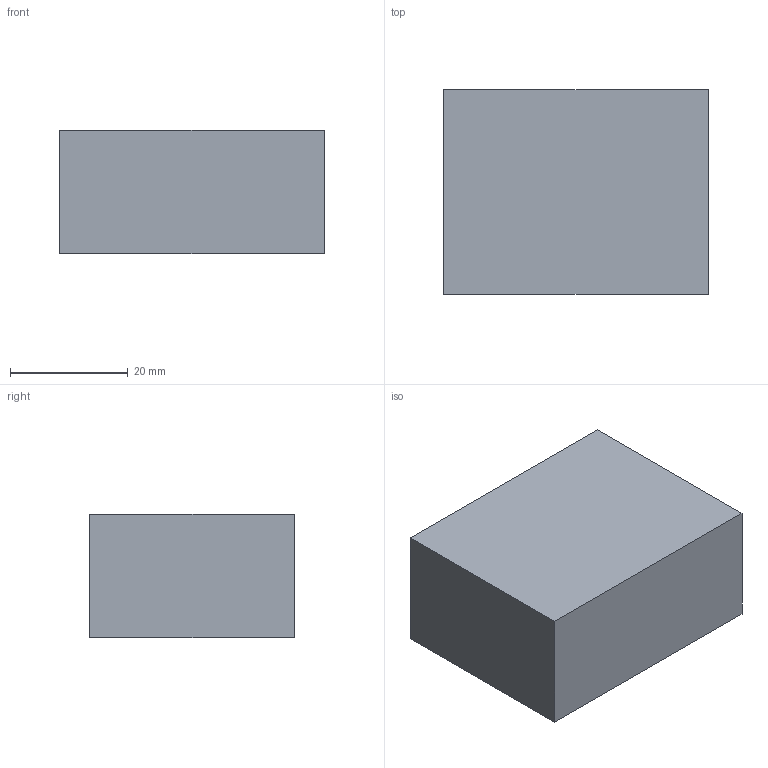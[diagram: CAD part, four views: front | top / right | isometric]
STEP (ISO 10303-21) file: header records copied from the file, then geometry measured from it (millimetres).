
FILE_DESCRIPTION(('Open CASCADE Model'),'2;1');
FILE_NAME('Open CASCADE Shape Model','2026-11-05T02:23:54',('Author'),( 'Open CASCADE'),'Open CASCADE STEP processor 7.8','Open CASCADE 7.8' ,'Unknown');
FILE_SCHEMA(('AUTOMOTIVE_DESIGN { 1 0 10303 214 1 1 1 1 }'));
Length unit declared in the file: millimetre
Products named in the file (1): Open CASCADE STEP translator 7.8 2
Bounding box: 45.07 x 34.81 x 21 mm (x, y, z)
Volume: 32952.1 mm3; surface area: 6493.5 mm2
Topology: 1 solids, 1 shells, 6 faces, 12 edges, 8 vertices
Faces by surface type: plane 6
Entity records: 322 total; most frequent: CARTESIAN_POINT 51, DIRECTION 50, LINE 36, VECTOR 36, ORIENTED_EDGE 24, PCURVE 24, DEFINITIONAL_REPRESENTATION 24, EDGE_CURVE 12
